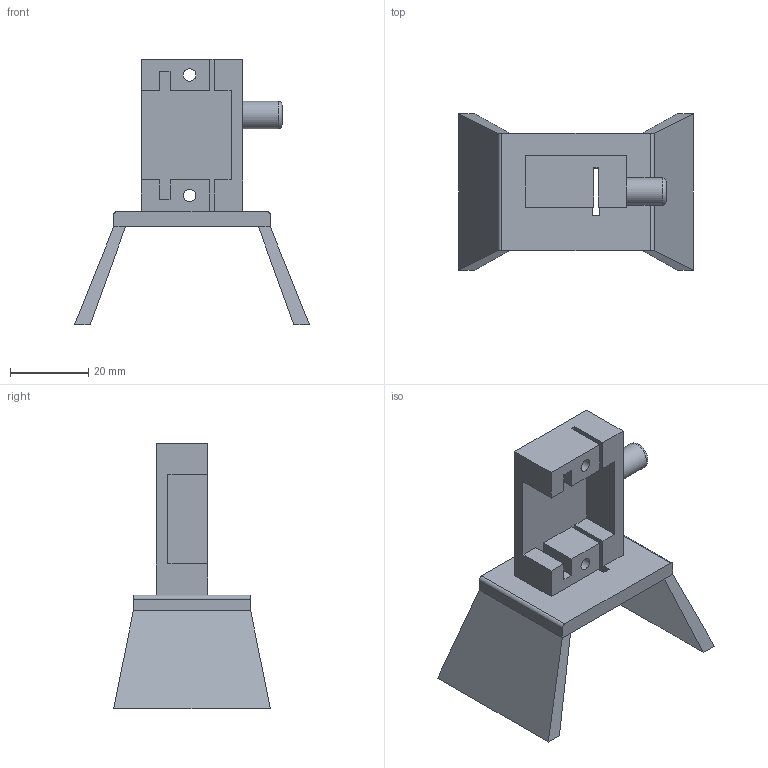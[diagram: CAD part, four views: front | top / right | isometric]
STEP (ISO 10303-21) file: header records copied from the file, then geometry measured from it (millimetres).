
FILE_DESCRIPTION(/* description */ (''),/* implementation_level */ '2;1');
FILE_NAME(/* name */ 'Base Joint_v12.tmp.step',/* time_stamp */ '2026-11-01T13:09:05+02:00',/* author */ (''),/* organization */ (''),/* preprocessor_version */ 'ST-DEVELOPER v20.2',/* originating_system */ 'Autodesk Translation Framework v15.15.0.0',/* authorisation */ '');
FILE_SCHEMA (('AUTOMOTIVE_DESIGN { 1 0 10303 214 3 1 1 }'));
Length unit declared in the file: millimetre
Products named in the file (4): Base Joint; Knob; New Servo Cage - Long; Motor Stand
Assembly tree (3 placements, depth 2):
  Base Joint
    Knob
    New Servo Cage - Long
    Motor Stand
Bounding box: 60 x 40 x 67.8 mm (x, y, z)
Volume: 18490.7 mm3; surface area: 12426.1 mm2
Topology: 3 solids, 3 shells, 54 faces, 136 edges, 88 vertices
Faces by surface type: plane 48, cylinder 5, torus 1
Full cylindrical faces by diameter (mm): 3.2 x2, 7 x1
Entity records: 1718 total; most frequent: CARTESIAN_POINT 285, ORIENTED_EDGE 272, DIRECTION 271, EDGE_CURVE 136, LINE 123, VECTOR 123, VERTEX_POINT 88, AXIS2_PLACEMENT_3D 74
